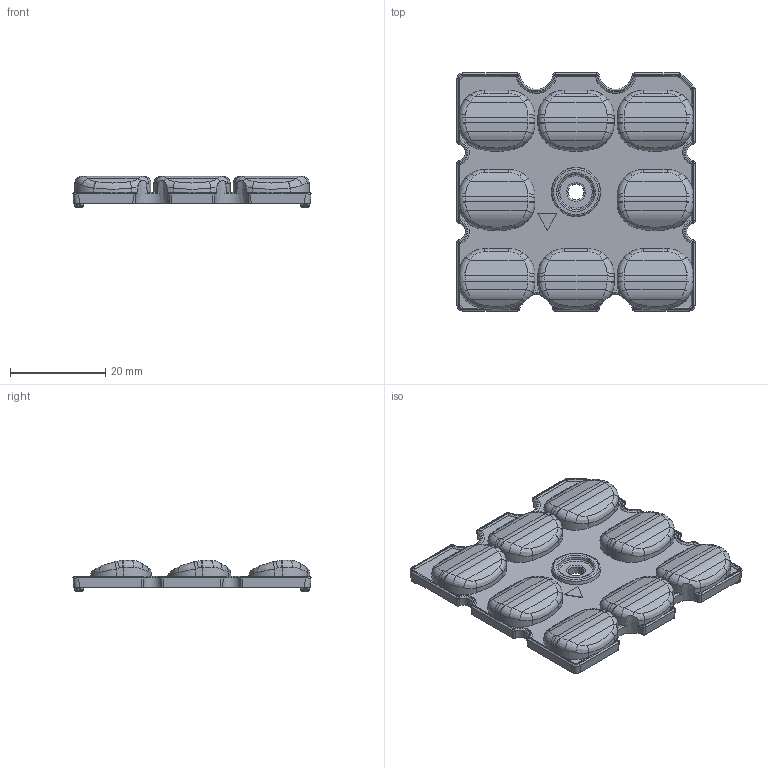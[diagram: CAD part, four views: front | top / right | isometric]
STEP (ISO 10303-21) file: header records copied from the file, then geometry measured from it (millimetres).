
FILE_DESCRIPTION(('CAx-IF Rec.Pracs.---Model Styling and Organization---1.2---2011-12-15','CAx-IF Rec.Pracs.---Geometric and Assembly Validation Properties---4.1---2014-06-16','CAx-IF Rec.Pracs.---PMI Polyline Presentation---2.0---2013-05-24'),'2;1');
FILE_NAME('022YS03Y05.stp','2020-09-09T08:50:43+02:00',(''),(''),'STEP Interface 4.3 by CT CoreTechnologie','3D_Evolution4.3 by CT CoreTechnologie','');
FILE_SCHEMA(('AP203_CONFIGURATION_CONTROLLED_3D_DESIGN_OF_MECHANICAL_PARTS_AND_ASSEMBLIES_MIM_LF'));
Length unit declared in the file: millimetre
Products named in the file (1): 022YS03Y05
Bounding box: 49.9 x 49.9 x 6.57 mm (x, y, z)
Volume: 8416.4 mm3; surface area: 6426.3 mm2
Topology: 1 solids, 1 shells, 761 faces, 1922 edges, 1206 vertices
Faces by surface type: bspline 336, plane 243, cylinder 182
Entity records: 70642 total; most frequent: CARTESIAN_POINT 22483, PROPERTY_DEFINITION 4124, ORIENTED_EDGE 3844, DIRECTION 3594, SHAPE_REPRESENTATION 2063, SHAPE_DEFINITION_REPRESENTATION 2063, REPRESENTATION 2062, SHAPE_ASPECT 2062
